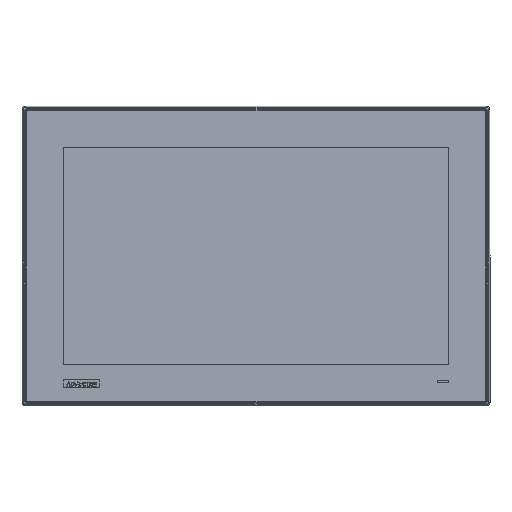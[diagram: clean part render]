
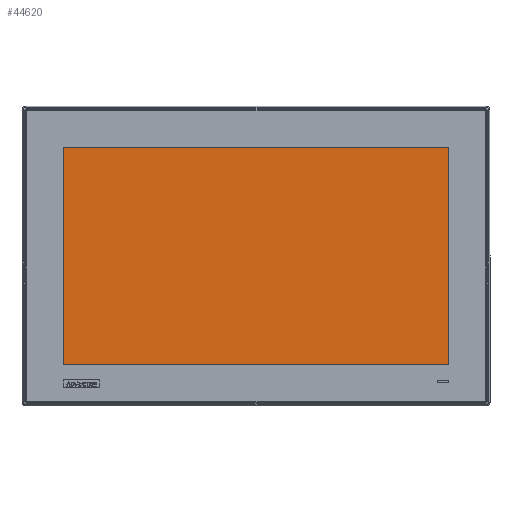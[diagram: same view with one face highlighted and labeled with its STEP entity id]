
A CAD part, top view. The second image highlights one B-rep face of the part: STEP entity #44620.
In plain terms, the highlighted planar face has unit normal (0, 0, 1).
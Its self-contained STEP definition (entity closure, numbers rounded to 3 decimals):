
#8749 = EDGE_CURVE ( 'NONE', #111457, #122529, #17915, .T. ) ;
#16323 = CARTESIAN_POINT ( 'NONE',  ( -172.95, -97.6, 1.8 ) ) ;
#16655 = CARTESIAN_POINT ( 'NONE',  ( 172.95, -97.6, 1.8 ) ) ;
#17915 = LINE ( 'NONE', #57552, #55260 ) ;
#18024 = VECTOR ( 'NONE', #51094, 1000. ) ;
#22202 = CARTESIAN_POINT ( 'NONE',  ( 172.95, 97.6, 1.8 ) ) ;
#32644 = LINE ( 'NONE', #82575, #91272 ) ;
#35700 = EDGE_CURVE ( 'NONE', #117922, #111457, #32644, .T. ) ;
#42979 = FACE_OUTER_BOUND ( 'NONE', #55169, .T. ) ;
#43577 = DIRECTION ( 'NONE',  ( 1., 0., 0. ) ) ;
#44620 = ADVANCED_FACE ( 'NONE', ( #42979 ), #122741, .T. ) ;
#47042 = ORIENTED_EDGE ( 'NONE', *, *, #8749, .T. ) ;
#51094 = DIRECTION ( 'NONE',  ( 1., 0., 0. ) ) ;
#55169 = EDGE_LOOP ( 'NONE', ( #47042, #101624, #110177, #57990 ) ) ;
#55260 = VECTOR ( 'NONE', #69168, 1000. ) ;
#57552 = CARTESIAN_POINT ( 'NONE',  ( -172.95, 97.6, 1.8 ) ) ;
#57990 = ORIENTED_EDGE ( 'NONE', *, *, #35700, .T. ) ;
#61812 = DIRECTION ( 'NONE',  ( 0., 1., 0. ) ) ;
#63134 = DIRECTION ( 'NONE',  ( -1., 0., 0. ) ) ;
#63740 = CARTESIAN_POINT ( 'NONE',  ( -172.95, -97.6, 1.8 ) ) ;
#67659 = VERTEX_POINT ( 'NONE', #16655 ) ;
#69168 = DIRECTION ( 'NONE',  ( 0., -1., 0. ) ) ;
#76640 = EDGE_CURVE ( 'NONE', #122529, #67659, #121763, .T. ) ;
#80257 = CARTESIAN_POINT ( 'NONE',  ( -172.95, -97.6, 1.8 ) ) ;
#81907 = DIRECTION ( 'NONE',  ( 0., 0., 1. ) ) ;
#82575 = CARTESIAN_POINT ( 'NONE',  ( -172.95, 97.6, 1.8 ) ) ;
#88516 = VECTOR ( 'NONE', #61812, 1000. ) ;
#91272 = VECTOR ( 'NONE', #63134, 1000. ) ;
#100695 = CARTESIAN_POINT ( 'NONE',  ( -172.95, 97.6, 1.8 ) ) ;
#100991 = EDGE_CURVE ( 'NONE', #67659, #117922, #111120, .T. ) ;
#101624 = ORIENTED_EDGE ( 'NONE', *, *, #76640, .T. ) ;
#106639 = AXIS2_PLACEMENT_3D ( 'NONE', #63740, #81907, #43577 ) ;
#106738 = CARTESIAN_POINT ( 'NONE',  ( 172.95, 97.6, 1.8 ) ) ;
#110177 = ORIENTED_EDGE ( 'NONE', *, *, #100991, .T. ) ;
#111120 = LINE ( 'NONE', #22202, #88516 ) ;
#111457 = VERTEX_POINT ( 'NONE', #100695 ) ;
#117922 = VERTEX_POINT ( 'NONE', #106738 ) ;
#121763 = LINE ( 'NONE', #80257, #18024 ) ;
#122529 = VERTEX_POINT ( 'NONE', #16323 ) ;
#122741 = PLANE ( 'NONE',  #106639 ) ;
